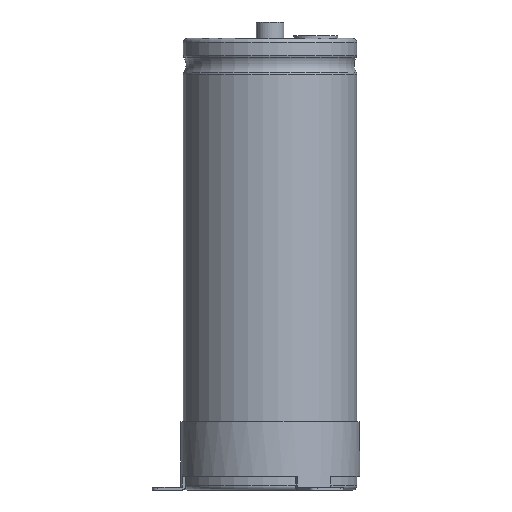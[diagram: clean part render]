
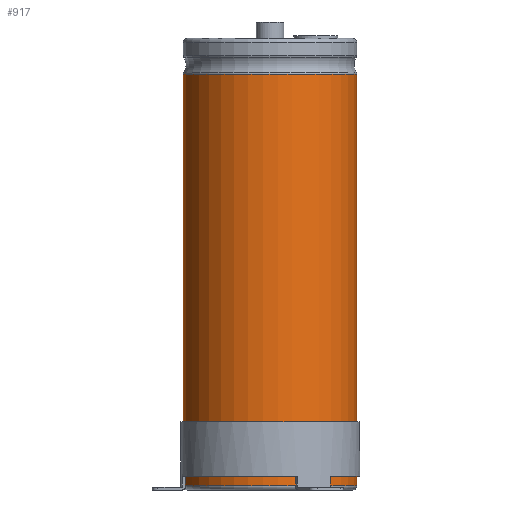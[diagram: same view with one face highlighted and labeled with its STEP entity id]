
A CAD part, front view. The second image highlights one B-rep face of the part: STEP entity #917.
In plain terms, the highlighted cylindrical face has radius 31.75 mm (diameter 63.5 mm), a partial arc.
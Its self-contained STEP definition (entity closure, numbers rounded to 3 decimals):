
#917=ADVANCED_FACE('',(#1213),#1039,.T.);
#1039=CYLINDRICAL_SURFACE('',#4878,31.75);
#1213=FACE_OUTER_BOUND('',#1474,.T.);
#1474=EDGE_LOOP('',(#2748,#2749,#2750,#2751));
#1758=CIRCLE('',#4875,31.75);
#1759=CIRCLE('',#4877,31.75);
#2748=ORIENTED_EDGE('',*,*,#3929,.T.);
#2749=ORIENTED_EDGE('',*,*,#3930,.T.);
#2750=ORIENTED_EDGE('',*,*,#3931,.F.);
#2751=ORIENTED_EDGE('',*,*,#3932,.F.);
#3366=VERTEX_POINT('',#7964);
#3368=VERTEX_POINT('',#7968);
#3369=VERTEX_POINT('',#7972);
#3370=VERTEX_POINT('',#7974);
#3929=EDGE_CURVE('',#3366,#3368,#1758,.T.);
#3930=EDGE_CURVE('',#3368,#3369,#4255,.T.);
#3931=EDGE_CURVE('',#3370,#3369,#1759,.T.);
#3932=EDGE_CURVE('',#3366,#3370,#4256,.T.);
#4255=LINE('',#7971,#4469);
#4256=LINE('',#7975,#4470);
#4469=VECTOR('',#5936,1.);
#4470=VECTOR('',#5939,1.);
#4875=AXIS2_PLACEMENT_3D('',#7969,#5932,#5933);
#4877=AXIS2_PLACEMENT_3D('',#7973,#5937,#5938);
#4878=AXIS2_PLACEMENT_3D('',#7976,#5940,#5941);
#5932=DIRECTION('',(0.,0.,-1.));
#5933=DIRECTION('',(0.,1.,0.));
#5936=DIRECTION('',(0.,0.,-1.));
#5937=DIRECTION('',(0.,0.,-1.));
#5938=DIRECTION('',(0.,1.,0.));
#5939=DIRECTION('',(0.,0.,-1.));
#5940=DIRECTION('',(0.,0.,-1.));
#5941=DIRECTION('',(0.,1.,0.));
#7964=CARTESIAN_POINT('',(4.007,31.496,151.9));
#7968=CARTESIAN_POINT('',(-4.007,31.496,151.9));
#7969=CARTESIAN_POINT('',(0.,0.,151.9));
#7971=CARTESIAN_POINT('',(-4.007,31.496,151.9));
#7972=CARTESIAN_POINT('',(-4.007,31.496,1.5));
#7973=CARTESIAN_POINT('',(0.,0.,1.5));
#7974=CARTESIAN_POINT('',(4.007,31.496,1.5));
#7975=CARTESIAN_POINT('',(4.007,31.496,151.9));
#7976=CARTESIAN_POINT('',(0.,0.,0.));
